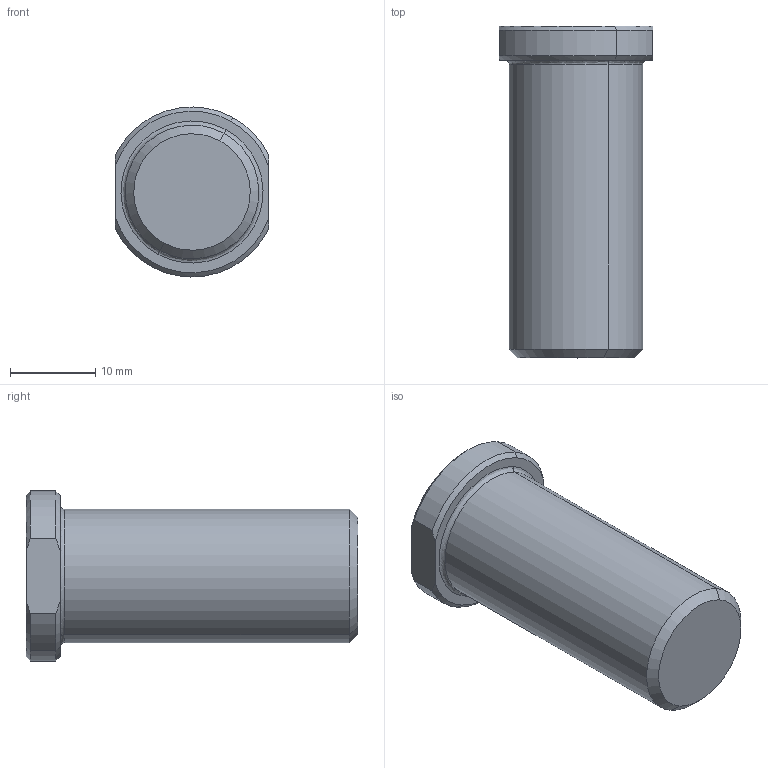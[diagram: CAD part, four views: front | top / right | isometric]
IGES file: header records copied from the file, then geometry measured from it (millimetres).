
Start section: START RECORD GO HERE.
Global section: file name: SU_13002 (tapped insert right).igs; native system: 44HIBM CATIA IGES - CATIA Version 5 Release 19; preprocessor: CATIA Version 5 Release 19 ; author: Le Genie; organization: THUNDERBOLT-OF-; date: 20220127.113801; units: millimetre
Bounding box: 18 x 39 x 20 mm (x, y, z)
Surface area: 2977.5 mm2 (no closed solid volume)
Topology: 0 solids, 0 shells, 27 faces, 122 edges, 120 vertices
Faces by surface type: revolution 22, plane 5
